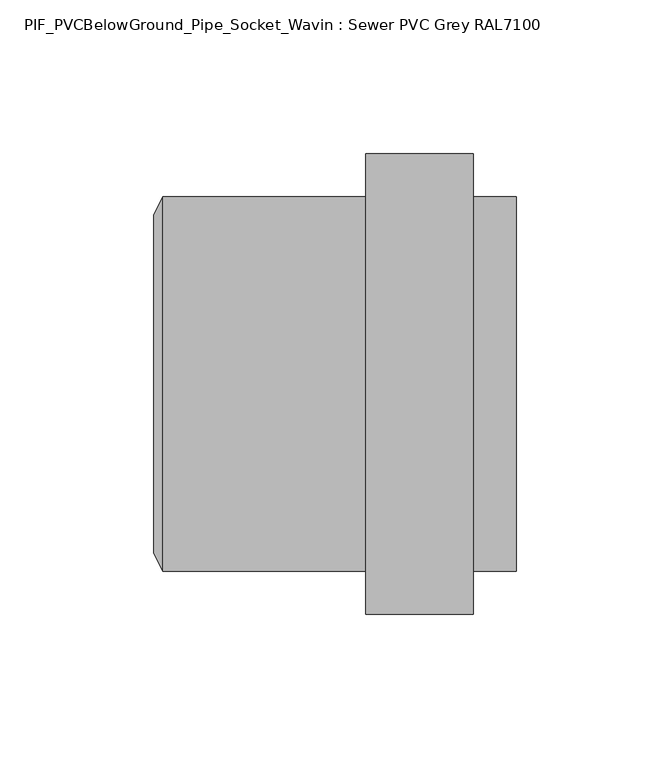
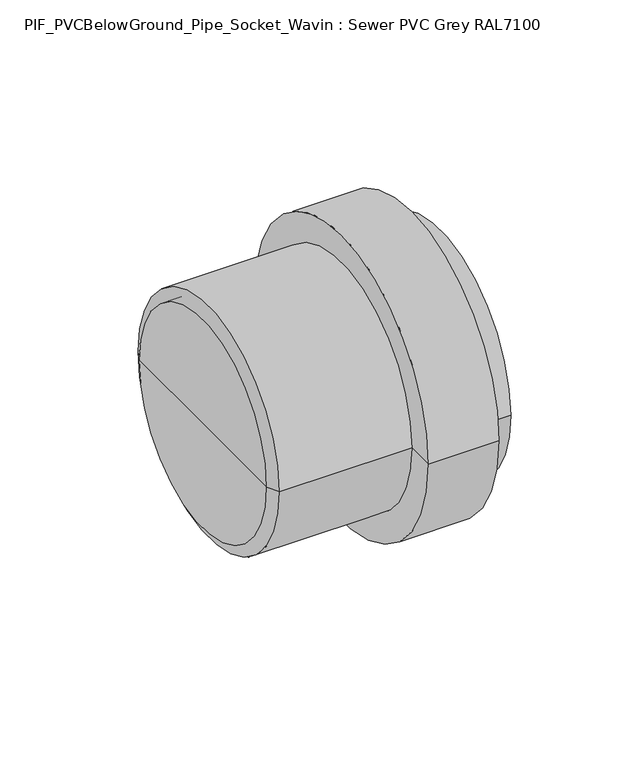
"""IFC4 building model written with IfcOpenShell, lengths in millimetres: pipe fitting geometry, PIF_PVCBelowGround_Pipe_Socket_Wavin : Sewer PVC Grey RAL7100."""

from ifc_helpers import new_model, si_unit, frame, origin, place, context, project, spatial, polyline, circle_curve, source, transform, mapped, element, save
from ifc_brep_helpers import plane_surface, cylinder_surface, revolved_surface, advanced_brep


def pif_pvcbelowground_pipe_socket_wavin_sewer_pvc_grey_ral7100_0078f4ef(model_context):
    return source(origin(), model_context, "Body", "AdvancedBrep", [
        advanced_brep(
        [(66.0, -75.0, 0.0), (66.0, 75.0, 0.0), (101.0, 75.0, 0.0), (101.0, -75.0, 0.0), (66.0, -60.95, 0.0), (66.0, 60.95, 0.0), (101.0, -60.95, 0.0), (101.0, 60.95, 0.0)],
        [
            (0, 1, circle_curve(frame((66.0, 0.0, 0.0), z_axis=(1.0, 0.0, 0.0), x_axis=(0.0, 1.0, 0.0)), 75.0)),
            (1, 2),
            (2, 3, circle_curve(frame((101.0, 0.0, 0.0), z_axis=(-1.0, 0.0, 0.0), x_axis=(0.0, 1.0, 0.0)), 75.0)),
            (3, 0),
            (1, 0, circle_curve(frame((66.0, 0.0, 0.0), z_axis=(1.0, 0.0, 0.0), x_axis=(0.0, 1.0, 0.0)), 75.0)),
            (3, 2, circle_curve(frame((101.0, 0.0, 0.0), z_axis=(-1.0, 0.0, 0.0), x_axis=(0.0, 1.0, 0.0)), 75.0)),
            (4, 5, circle_curve(frame((66.0, 0.0, 0.0), z_axis=(1.0, 0.0, 0.0), x_axis=(0.0, 1.0, 0.0)), 60.95)),
            (5, 1),
            (0, 4),
            (5, 4, circle_curve(frame((66.0, 0.0, 0.0), z_axis=(1.0, 0.0, 0.0), x_axis=(0.0, 1.0, 0.0)), 60.95)),
            (6, 7, circle_curve(frame((101.0, 0.0, 0.0), z_axis=(1.0, 0.0, 0.0), x_axis=(0.0, 1.0, 0.0)), 60.95)),
            (7, 5),
            (4, 6),
            (7, 6, circle_curve(frame((101.0, 0.0, 0.0), z_axis=(1.0, 0.0, 0.0), x_axis=(0.0, 1.0, 0.0)), 60.95)),
            (2, 7),
            (6, 3),
        ],
        [
            cylinder_surface(frame((2025.3, 0.0, 0.0), z_axis=(-1.0, 0.0, 0.0), x_axis=(0.0, 1.0, 0.0)), 75.0),
            plane_surface(frame((66.0, 0.0, 0.0), z_axis=(-1.0, 0.0, 0.0), x_axis=(0.0, 1.0, 0.0))),
            revolved_surface(polyline([(66.0, 60.95, 0.0), (101.0, 60.95, 0.0)]), (2025.3, 0.0, 0.0), (-1.0, 0.0, 0.0)),
            plane_surface(frame((101.0, 0.0, 0.0), z_axis=(1.0, 0.0, 0.0), x_axis=(0.0, 1.0, 0.0))),
        ],
        [
            (0, [[1, 2, 3, 4]]),
            (0, [[5, -4, 6, -2]]),
            (1, [[7, 8, -1, 9]]),
            (1, [[10, -9, -5, -8]]),
            (2, [[11, 12, -7, 13]]),
            (2, [[14, -13, -10, -12]]),
            (3, [[-3, 15, -11, 16]]),
            (3, [[-6, -16, -14, -15]]),
        ],
    ),
        advanced_brep(
        [(115.0, -60.95, 0.0), (115.0, 60.95, 0.0), (115.0, 55.0, 0.0), (115.0, -55.0, 0.0), (0.0, -60.95, 0.0), (0.0, 60.95, 0.0), (-3.0, -55.0, 0.0), (-3.0, 55.0, 0.0), (-3.0, 0.0, 0.0), (0.0, -55.0, 0.0), (0.0, 55.0, 0.0), (0.0, 0.0, 0.0)],
        [
            (0, 1, circle_curve(frame((115.0, 0.0, 0.0), z_axis=(1.0, 0.0, 0.0), x_axis=(0.0, 1.0, 0.0)), 60.95)),
            (1, 2),
            (2, 3, circle_curve(frame((115.0, 0.0, 0.0), z_axis=(-1.0, 0.0, 0.0), x_axis=(0.0, 1.0, 0.0)), 55.0)),
            (3, 0),
            (1, 0, circle_curve(frame((115.0, 0.0, 0.0), z_axis=(1.0, 0.0, 0.0), x_axis=(0.0, 1.0, 0.0)), 60.95)),
            (3, 2, circle_curve(frame((115.0, 0.0, 0.0), z_axis=(-1.0, 0.0, 0.0), x_axis=(0.0, 1.0, 0.0)), 55.0)),
            (4, 5, circle_curve(frame((0.0, 0.0, 0.0), z_axis=(1.0, 0.0, 0.0), x_axis=(0.0, 1.0, 0.0)), 60.95)),
            (5, 1),
            (0, 4),
            (5, 4, circle_curve(frame((0.0, 0.0, 0.0), z_axis=(1.0, 0.0, 0.0), x_axis=(0.0, 1.0, 0.0)), 60.95)),
            (6, 7, circle_curve(frame((-3.0, 0.0, 0.0), z_axis=(1.0, 0.0, 0.0), x_axis=(0.0, 1.0, 0.0)), 55.0)),
            (7, 5),
            (4, 6),
            (7, 6, circle_curve(frame((-3.0, 0.0, 0.0), z_axis=(1.0, 0.0, 0.0), x_axis=(0.0, 1.0, 0.0)), 55.0)),
            (8, 7),
            (6, 8),
            (9, 10, circle_curve(frame((0.0, 0.0, 0.0), z_axis=(1.0, 0.0, 0.0), x_axis=(0.0, 1.0, 0.0)), 55.0)),
            (10, 11),
            (11, 9),
            (10, 9, circle_curve(frame((0.0, 0.0, 0.0), z_axis=(1.0, 0.0, 0.0), x_axis=(0.0, 1.0, 0.0)), 55.0)),
            (2, 10),
            (9, 3),
        ],
        [
            plane_surface(frame((115.0, 0.0, 0.0), z_axis=(1.0, 0.0, 0.0), x_axis=(0.0, 1.0, 0.0))),
            cylinder_surface(frame((2025.3, 0.0, 0.0), z_axis=(-1.0, 0.0, 0.0), x_axis=(0.0, 1.0, 0.0)), 60.95),
            revolved_surface(polyline([(0.0, 60.95, 0.0), (-3.0, 55.0, 0.0)]), (2025.3, 0.0, 0.0), (-1.0, 0.0, 0.0)),
            plane_surface(frame((-3.0, 0.0, 0.0), z_axis=(-1.0, 0.0, 0.0), x_axis=(0.0, 1.0, 0.0))),
            plane_surface(frame((0.0, 0.0, 0.0), z_axis=(1.0, 0.0, 0.0), x_axis=(0.0, 1.0, 0.0))),
            revolved_surface(polyline([(0.0, 55.0, 0.0), (115.0, 55.0, 0.0)]), (2025.3, 0.0, 0.0), (-1.0, 0.0, 0.0)),
        ],
        [
            (0, [[1, 2, 3, 4]]),
            (0, [[5, -4, 6, -2]]),
            (1, [[7, 8, -1, 9]]),
            (1, [[10, -9, -5, -8]]),
            (2, [[11, 12, -7, 13]]),
            (2, [[14, -13, -10, -12]]),
            (3, [[15, -11, 16]]),
            (3, [[-16, -14, -15]]),
            (4, [[17, 18, 19]]),
            (4, [[20, -19, -18]]),
            (5, [[-3, 21, -17, 22]]),
            (5, [[-6, -22, -20, -21]]),
        ],
    ),
    ])


if __name__ == "__main__":
    model = new_model("IFC4")
    model_context = context("Model", 3, world=origin())
    ifc_project = project(units=[si_unit("LENGTHUNIT", "METRE", prefix="MILLI")], contexts=[model_context])
    site = spatial("IfcSite", under=ifc_project)
    building = spatial("IfcBuilding", under=site)
    placement = place(None, origin())
    pif_pvcbelowground_pipe_socket_wavin_sewer_pvc_grey_ral7100_shape = pif_pvcbelowground_pipe_socket_wavin_sewer_pvc_grey_ral7100_0078f4ef(model_context)
    element("IfcPipeFitting", 1, ObjectType="PIF_PVCBelowGround_Pipe_Socket_Wavin : Sewer PVC Grey RAL7100", at=placement, inside=building, context=model_context, shape_type="MappedRepresentation", body=[
        mapped(pif_pvcbelowground_pipe_socket_wavin_sewer_pvc_grey_ral7100_shape, transform((0.0, 0.0, 0.0), x_axis=(1.0, 0.0, 0.0), y_axis=(0.0, 1.0, 0.0), z_axis=(0.0, 0.0, 1.0))),
    ])
    save(model, "model.ifc")
